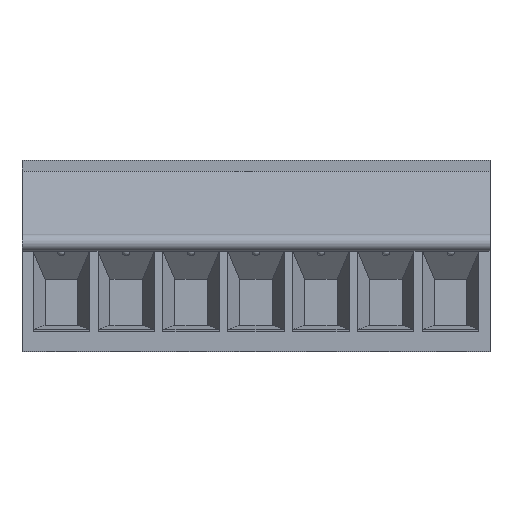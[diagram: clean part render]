
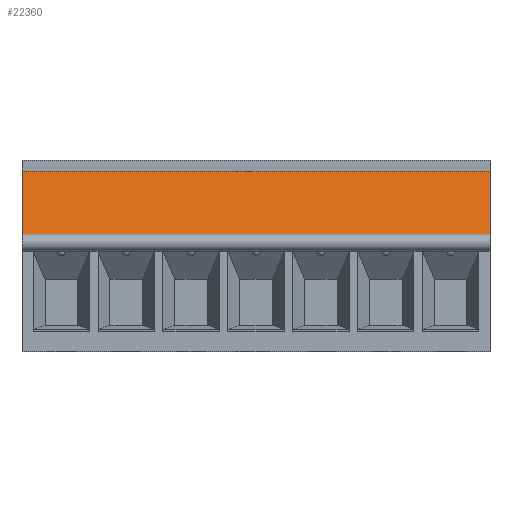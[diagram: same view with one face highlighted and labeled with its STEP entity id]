
A CAD part, top view. The second image highlights one B-rep face of the part: STEP entity #22360.
In plain terms, the highlighted planar face has unit normal (0, 0.249, 0.969).
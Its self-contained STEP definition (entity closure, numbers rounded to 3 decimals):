
#32 = PLANE('',#33);
#33 = AXIS2_PLACEMENT_3D('',#34,#35,#36);
#34 = CARTESIAN_POINT('',(0.,-29.45,2.413));
#35 = DIRECTION('',(1.,0.,0.));
#36 = DIRECTION('',(0.,0.,-1.));
#118 = VERTEX_POINT('',#119);
#119 = CARTESIAN_POINT('',(0.,0.5,-0.65));
#133 = PLANE('',#134);
#134 = AXIS2_PLACEMENT_3D('',#135,#136,#137);
#135 = CARTESIAN_POINT('',(0.,0.5,0.));
#136 = DIRECTION('',(0.,-1.,0.));
#137 = DIRECTION('',(0.,0.,-1.));
#145 = EDGE_CURVE('',#118,#146,#148,.T.);
#146 = VERTEX_POINT('',#147);
#147 = CARTESIAN_POINT('',(0.,4.2,-1.6));
#148 = SURFACE_CURVE('',#149,(#153,#160),.PCURVE_S1.);
#149 = LINE('',#150,#151);
#150 = CARTESIAN_POINT('',(0.,0.5,-0.65));
#151 = VECTOR('',#152,1.);
#152 = DIRECTION('',(0.,0.969,-0.249));
#153 = PCURVE('',#32,#154);
#154 = DEFINITIONAL_REPRESENTATION('',(#155),#159);
#155 = LINE('',#156,#157);
#156 = CARTESIAN_POINT('',(3.063,29.95));
#157 = VECTOR('',#158,1.);
#158 = DIRECTION('',(0.249,0.969));
#159 = ( GEOMETRIC_REPRESENTATION_CONTEXT(2) 
PARAMETRIC_REPRESENTATION_CONTEXT() REPRESENTATION_CONTEXT('2D SPACE',''
  ) );
#160 = PCURVE('',#161,#166);
#161 = PLANE('',#162);
#162 = AXIS2_PLACEMENT_3D('',#163,#164,#165);
#163 = CARTESIAN_POINT('',(0.,0.5,-0.65));
#164 = DIRECTION('',(0.,-0.249,-0.969));
#165 = DIRECTION('',(0.,0.969,-0.249));
#166 = DEFINITIONAL_REPRESENTATION('',(#167),#171);
#167 = LINE('',#168,#169);
#168 = CARTESIAN_POINT('',(0.,0.));
#169 = VECTOR('',#170,1.);
#170 = DIRECTION('',(1.,0.));
#171 = ( GEOMETRIC_REPRESENTATION_CONTEXT(2) 
PARAMETRIC_REPRESENTATION_CONTEXT() REPRESENTATION_CONTEXT('2D SPACE',''
  ) );
#189 = PLANE('',#190);
#190 = AXIS2_PLACEMENT_3D('',#191,#192,#193);
#191 = CARTESIAN_POINT('',(0.,4.2,-1.6));
#192 = DIRECTION('',(0.,1.,0.));
#193 = DIRECTION('',(0.,-0.,1.));
#437 = PLANE('',#438);
#438 = AXIS2_PLACEMENT_3D('',#439,#440,#441);
#439 = CARTESIAN_POINT('',(-27.46,-12.25,-10.621));
#440 = DIRECTION('',(-1.,0.,0.));
#441 = DIRECTION('',(0.,0.,1.));
#22315 = EDGE_CURVE('',#146,#22316,#22318,.T.);
#22316 = VERTEX_POINT('',#22317);
#22317 = CARTESIAN_POINT('',(-27.46,4.2,-1.6));
#22318 = SURFACE_CURVE('',#22319,(#22323,#22330),.PCURVE_S1.);
#22319 = LINE('',#22320,#22321);
#22320 = CARTESIAN_POINT('',(0.,4.2,-1.6));
#22321 = VECTOR('',#22322,1.);
#22322 = DIRECTION('',(-1.,0.,0.));
#22323 = PCURVE('',#189,#22324);
#22324 = DEFINITIONAL_REPRESENTATION('',(#22325),#22329);
#22325 = LINE('',#22326,#22327);
#22326 = CARTESIAN_POINT('',(0.,0.));
#22327 = VECTOR('',#22328,1.);
#22328 = DIRECTION('',(0.,-1.));
#22329 = ( GEOMETRIC_REPRESENTATION_CONTEXT(2) 
PARAMETRIC_REPRESENTATION_CONTEXT() REPRESENTATION_CONTEXT('2D SPACE',''
  ) );
#22330 = PCURVE('',#161,#22331);
#22331 = DEFINITIONAL_REPRESENTATION('',(#22332),#22336);
#22332 = LINE('',#22333,#22334);
#22333 = CARTESIAN_POINT('',(3.82,0.));
#22334 = VECTOR('',#22335,1.);
#22335 = DIRECTION('',(0.,-1.));
#22336 = ( GEOMETRIC_REPRESENTATION_CONTEXT(2) 
PARAMETRIC_REPRESENTATION_CONTEXT() REPRESENTATION_CONTEXT('2D SPACE',''
  ) );
#22360 = ADVANCED_FACE('',(#22361),#161,.F.);
#22361 = FACE_BOUND('',#22362,.F.);
#22362 = EDGE_LOOP('',(#22363,#22386,#22407,#22408));
#22363 = ORIENTED_EDGE('',*,*,#22364,.T.);
#22364 = EDGE_CURVE('',#118,#22365,#22367,.T.);
#22365 = VERTEX_POINT('',#22366);
#22366 = CARTESIAN_POINT('',(-27.46,0.5,-0.65));
#22367 = SURFACE_CURVE('',#22368,(#22372,#22379),.PCURVE_S1.);
#22368 = LINE('',#22369,#22370);
#22369 = CARTESIAN_POINT('',(0.,0.5,-0.65));
#22370 = VECTOR('',#22371,1.);
#22371 = DIRECTION('',(-1.,0.,0.));
#22372 = PCURVE('',#161,#22373);
#22373 = DEFINITIONAL_REPRESENTATION('',(#22374),#22378);
#22374 = LINE('',#22375,#22376);
#22375 = CARTESIAN_POINT('',(0.,0.));
#22376 = VECTOR('',#22377,1.);
#22377 = DIRECTION('',(0.,-1.));
#22378 = ( GEOMETRIC_REPRESENTATION_CONTEXT(2) 
PARAMETRIC_REPRESENTATION_CONTEXT() REPRESENTATION_CONTEXT('2D SPACE',''
  ) );
#22379 = PCURVE('',#133,#22380);
#22380 = DEFINITIONAL_REPRESENTATION('',(#22381),#22385);
#22381 = LINE('',#22382,#22383);
#22382 = CARTESIAN_POINT('',(0.65,0.));
#22383 = VECTOR('',#22384,1.);
#22384 = DIRECTION('',(0.,-1.));
#22385 = ( GEOMETRIC_REPRESENTATION_CONTEXT(2) 
PARAMETRIC_REPRESENTATION_CONTEXT() REPRESENTATION_CONTEXT('2D SPACE',''
  ) );
#22386 = ORIENTED_EDGE('',*,*,#22387,.T.);
#22387 = EDGE_CURVE('',#22365,#22316,#22388,.T.);
#22388 = SURFACE_CURVE('',#22389,(#22393,#22400),.PCURVE_S1.);
#22389 = LINE('',#22390,#22391);
#22390 = CARTESIAN_POINT('',(-27.46,0.5,-0.65));
#22391 = VECTOR('',#22392,1.);
#22392 = DIRECTION('',(0.,0.969,-0.249));
#22393 = PCURVE('',#161,#22394);
#22394 = DEFINITIONAL_REPRESENTATION('',(#22395),#22399);
#22395 = LINE('',#22396,#22397);
#22396 = CARTESIAN_POINT('',(0.,-27.46));
#22397 = VECTOR('',#22398,1.);
#22398 = DIRECTION('',(1.,0.));
#22399 = ( GEOMETRIC_REPRESENTATION_CONTEXT(2) 
PARAMETRIC_REPRESENTATION_CONTEXT() REPRESENTATION_CONTEXT('2D SPACE',''
  ) );
#22400 = PCURVE('',#437,#22401);
#22401 = DEFINITIONAL_REPRESENTATION('',(#22402),#22406);
#22402 = LINE('',#22403,#22404);
#22403 = CARTESIAN_POINT('',(9.971,12.75));
#22404 = VECTOR('',#22405,1.);
#22405 = DIRECTION('',(-0.249,0.969));
#22406 = ( GEOMETRIC_REPRESENTATION_CONTEXT(2) 
PARAMETRIC_REPRESENTATION_CONTEXT() REPRESENTATION_CONTEXT('2D SPACE',''
  ) );
#22407 = ORIENTED_EDGE('',*,*,#22315,.F.);
#22408 = ORIENTED_EDGE('',*,*,#145,.F.);
